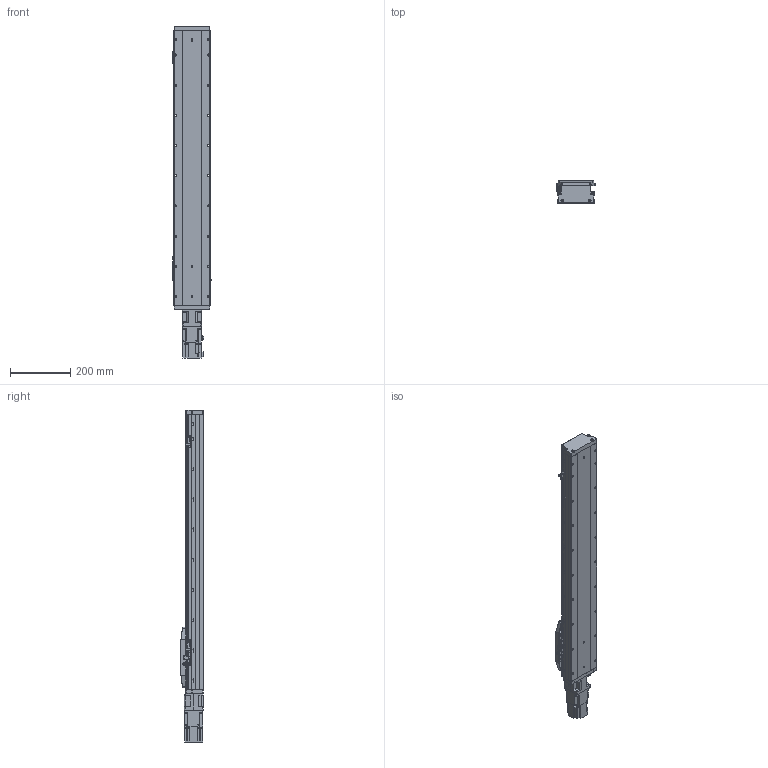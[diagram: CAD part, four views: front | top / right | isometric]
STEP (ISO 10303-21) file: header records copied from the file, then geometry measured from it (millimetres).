
FILE_DESCRIPTION (( 'STEP AP203' ), '1' );
FILE_NAME ('70.STEP', '2022-04-25T09:02:18', ( '' ), ( '' ), 'SwSTEP 2.0', 'SolidWorks 2016', '' );
FILE_SCHEMA (( 'CONFIG_CONTROL_DESIGN' ));
Length unit declared in the file: millimetre
Products named in the file (11): CTH12-BC-菁釱; CTH12-BC-01; PM-Y45; CTH12-BC-03-W; CTH12-BC-05; CTH12-BC-T40; CTH12-BC-HZ; CTH12-BC-04; 70; CTH12-BC-07; CTH12-BC-06-T40
Assembly tree (15 placements, depth 2):
  70
    CTH12-BC-菁釱
    CTH12-BC-01
    CTH12-BC-06-T40
    CTH12-BC-03-W
    CTH12-BC-04
    CTH12-BC-05  x2
    CTH12-BC-07  x3
    CTH12-BC-HZ
    CTH12-BC-T40
    PM-Y45  x3
Bounding box: 129 x 76 x 1099.5 mm (x, y, z)
Volume: 6463670.9 mm3; surface area: 603310 mm2
Topology: 25 solids, 25 shells, 1767 faces, 4640 edges, 2971 vertices
Faces by surface type: plane 954, cylinder 549, cone 178, bspline 86
Entity records: 52843 total; most frequent: CARTESIAN_POINT 13643, ORIENTED_EDGE 7940, DIRECTION 7700, EDGE_CURVE 3970, LINE 2638, VECTOR 2638, VERTEX_POINT 2571, AXIS2_PLACEMENT_3D 2531
